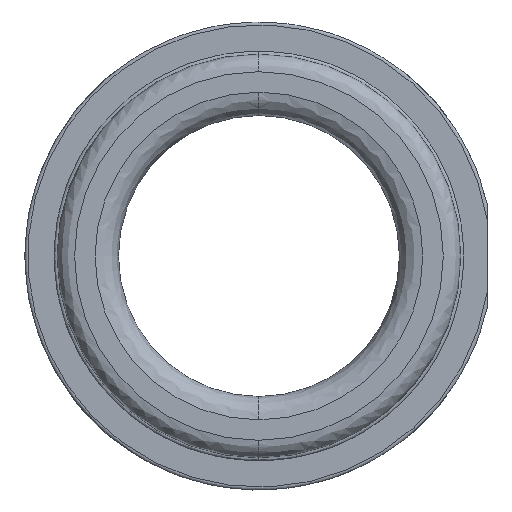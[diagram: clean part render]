
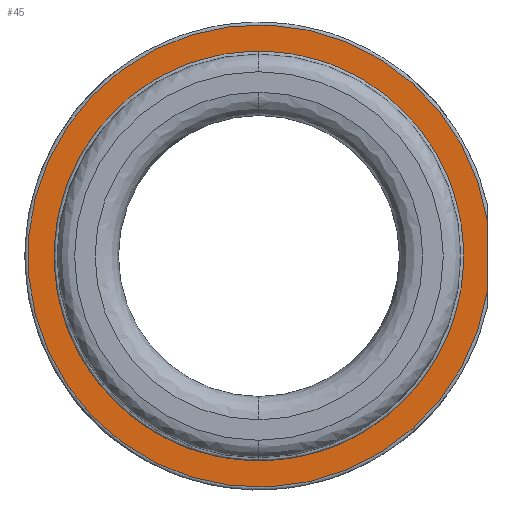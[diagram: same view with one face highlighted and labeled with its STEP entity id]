
A CAD part, left-side view. The second image highlights one B-rep face of the part: STEP entity #45.
In plain terms, the highlighted planar face has unit normal (-1, 0, 0).
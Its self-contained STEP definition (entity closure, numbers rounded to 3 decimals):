
#45=ADVANCED_FACE('',(#174,#175),#173,.F.);
#173=PLANE('',#993);
#174=FACE_OUTER_BOUND('',#994,.T.);
#175=FACE_BOUND('',#995,.T.);
#990=CARTESIAN_POINT('',(-7.5,-49.,76.223));
#991=DIRECTION('',(1.,0.,0.));
#992=DIRECTION('',(0.,0.,-1.));
#993=AXIS2_PLACEMENT_3D('',#990,#991,#992);
#994=EDGE_LOOP('',(#1944,#1945));
#995=EDGE_LOOP('',(#1946,#1947));
#1944=ORIENTED_EDGE('',*,*,#2264,.F.);
#1945=ORIENTED_EDGE('',*,*,#2265,.T.);
#1946=ORIENTED_EDGE('',*,*,#2266,.T.);
#1947=ORIENTED_EDGE('',*,*,#2267,.T.);
#2264=EDGE_CURVE('',#2544,#2545,#2546,.T.);
#2265=EDGE_CURVE('',#2544,#2545,#2552,.T.);
#2266=EDGE_CURVE('',#2558,#2559,#2560,.T.);
#2267=EDGE_CURVE('',#2559,#2558,#2566,.T.);
#2544=VERTEX_POINT('',#3576);
#2545=VERTEX_POINT('',#3577);
#2546=LINE('',#3578,#3579);
#2552=CIRCLE('',#3584,39.5);
#2558=VERTEX_POINT('',#3585);
#2559=VERTEX_POINT('',#3586);
#2560=CIRCLE('',#3590,34.5);
#2566=CIRCLE('',#3594,34.5);
#3576=CARTESIAN_POINT('',(-7.5,-39.,6.265));
#3577=CARTESIAN_POINT('',(-7.5,-39.,-6.265));
#3578=CARTESIAN_POINT('',(-7.5,-39.,6.265));
#3579=VECTOR('',#3580,12.53);
#3580=DIRECTION('',(0.,0.,-1.));
#3581=CARTESIAN_POINT('',(-7.5,0.,0.));
#3582=DIRECTION('',(-1.,0.,0.));
#3583=DIRECTION('',(0.,-0.987,-0.159));
#3584=AXIS2_PLACEMENT_3D('',#3581,#3582,#3583);
#3585=CARTESIAN_POINT('',(-7.5,0.,-34.5));
#3586=CARTESIAN_POINT('',(-7.5,0.,34.5));
#3587=CARTESIAN_POINT('',(-7.5,0.,0.));
#3588=DIRECTION('',(1.,0.,0.));
#3589=DIRECTION('',(0.,0.,-1.));
#3590=AXIS2_PLACEMENT_3D('',#3587,#3588,#3589);
#3591=CARTESIAN_POINT('',(-7.5,0.,0.));
#3592=DIRECTION('',(1.,0.,0.));
#3593=DIRECTION('',(0.,0.,-1.));
#3594=AXIS2_PLACEMENT_3D('',#3591,#3592,#3593);
